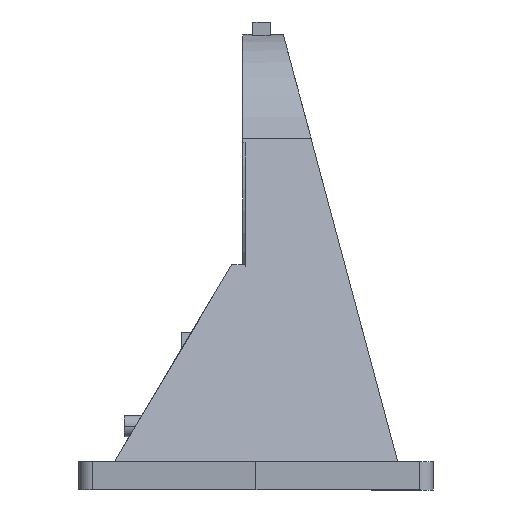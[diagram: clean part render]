
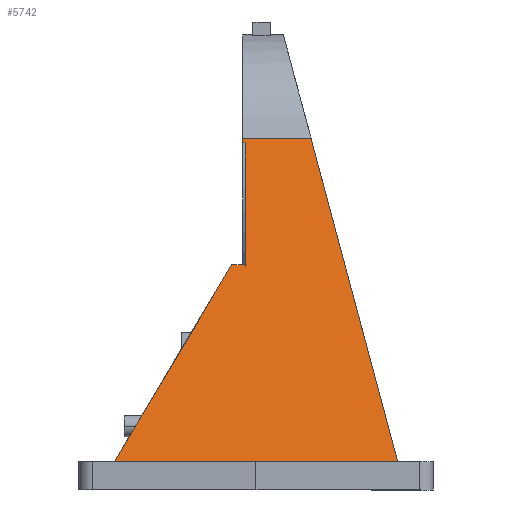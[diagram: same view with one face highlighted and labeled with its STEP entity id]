
A CAD part, front view. The second image highlights one B-rep face of the part: STEP entity #5742.
In plain terms, the highlighted planar face has unit normal (0, -0.971, 0.241).
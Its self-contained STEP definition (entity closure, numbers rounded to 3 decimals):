
#474 = VERTEX_POINT ( 'NONE', #1984 ) ;
#475 = EDGE_CURVE ( 'NONE', #6029, #474, #1982, .T. ) ;
#1979 = DIRECTION ( 'NONE',  ( -0.5, -0.208, -0.84 ) ) ;
#1980 = VECTOR ( 'NONE', #1979, 1000. ) ;
#1981 = CARTESIAN_POINT ( 'NONE',  ( 416.23, -231.152, -132.358 ) ) ;
#1982 = LINE ( 'NONE', #1981, #1980 ) ;
#1984 = CARTESIAN_POINT ( 'NONE',  ( 250.881, -300., -410. ) ) ;
#2461 = DIRECTION ( 'NONE',  ( 0., -0.241, -0.971 ) ) ;
#2462 = VECTOR ( 'NONE', #2461, 1000. ) ;
#2463 = CARTESIAN_POINT ( 'NONE',  ( 435.5, -186.841, 46.332 ) ) ;
#2464 = LINE ( 'NONE', #2463, #2462 ) ;
#3455 = DIRECTION ( 'NONE',  ( 0., -0.241, -0.971 ) ) ;
#3456 = DIRECTION ( 'NONE',  ( 0., -0.971, 0.241 ) ) ;
#3457 = CARTESIAN_POINT ( 'NONE',  ( 245.05, -186.841, 46.332 ) ) ;
#3458 = AXIS2_PLACEMENT_3D ( 'NONE', #3457, #3456, #3455 ) ;
#3460 = PLANE ( 'NONE',  #3458 ) ;
#3475 = FACE_OUTER_BOUND ( 'NONE', #5743, .T. ) ;
#3896 = VECTOR ( 'NONE', #3950, 1000. ) ;
#3897 = CARTESIAN_POINT ( 'NONE',  ( 245.05, -188.537, 39.492 ) ) ;
#3898 = LINE ( 'NONE', #3897, #3896 ) ;
#3899 = CARTESIAN_POINT ( 'NONE',  ( 435.5, -188.537, 39.492 ) ) ;
#3949 = CARTESIAN_POINT ( 'NONE',  ( 431.5, -188.537, 39.492 ) ) ;
#3950 = DIRECTION ( 'NONE',  ( 1., 0., 0. ) ) ;
#3952 = CARTESIAN_POINT ( 'NONE',  ( 435.5, -231.152, -132.358 ) ) ;
#4138 = CARTESIAN_POINT ( 'NONE',  ( 528.055, -186.841, 46.332 ) ) ;
#4139 = DIRECTION ( 'NONE',  ( -1., 0., 0. ) ) ;
#4140 = VECTOR ( 'NONE', #4139, 1000. ) ;
#4141 = CARTESIAN_POINT ( 'NONE',  ( 245.05, -186.841, 46.332 ) ) ;
#4142 = LINE ( 'NONE', #4141, #4140 ) ;
#4143 = CARTESIAN_POINT ( 'NONE',  ( 431.5, -186.841, 46.332 ) ) ;
#4144 = DIRECTION ( 'NONE',  ( 0., -0.241, -0.971 ) ) ;
#4145 = VECTOR ( 'NONE', #4144, 1000. ) ;
#4146 = CARTESIAN_POINT ( 'NONE',  ( 431.5, -186.841, 46.332 ) ) ;
#4147 = LINE ( 'NONE', #4146, #4145 ) ;
#4158 = DIRECTION ( 'NONE',  ( -1., 0., 0. ) ) ;
#4159 = VECTOR ( 'NONE', #4158, 1000. ) ;
#4160 = CARTESIAN_POINT ( 'NONE',  ( 245.05, -231.152, -132.358 ) ) ;
#4166 = LINE ( 'NONE', #4160, #4159 ) ;
#4167 = CARTESIAN_POINT ( 'NONE',  ( 416.23, -231.152, -132.358 ) ) ;
#4326 = DIRECTION ( 'NONE',  ( -0.252, 0.233, 0.939 ) ) ;
#4327 = VECTOR ( 'NONE', #4326, 1000. ) ;
#4328 = CARTESIAN_POINT ( 'NONE',  ( 650.329, -300., -410. ) ) ;
#4329 = LINE ( 'NONE', #4328, #4327 ) ;
#4331 = CARTESIAN_POINT ( 'NONE',  ( 650.329, -300., -410. ) ) ;
#4332 = DIRECTION ( 'NONE',  ( 1., 0., 0. ) ) ;
#4333 = VECTOR ( 'NONE', #4332, 1000. ) ;
#4334 = CARTESIAN_POINT ( 'NONE',  ( 680.5, -300., -410. ) ) ;
#4335 = LINE ( 'NONE', #4334, #4333 ) ;
#5600 = EDGE_CURVE ( 'NONE', #5917, #5949, #2464, .T. ) ;
#5664 = ORIENTED_EDGE ( 'NONE', *, *, #5600, .T. ) ;
#5665 = ORIENTED_EDGE ( 'NONE', *, *, #6031, .T. ) ;
#5666 = ORIENTED_EDGE ( 'NONE', *, *, #475, .T. ) ;
#5742 = ADVANCED_FACE ( 'NONE', ( #3475 ), #3460, .T. ) ;
#5743 = EDGE_LOOP ( 'NONE', ( #5744, #5664, #5665, #5666, #6098, #6101, #6103, #6104 ) ) ;
#5744 = ORIENTED_EDGE ( 'NONE', *, *, #5919, .T. ) ;
#5917 = VERTEX_POINT ( 'NONE', #3899 ) ;
#5919 = EDGE_CURVE ( 'NONE', #5920, #5917, #3898, .T. ) ;
#5920 = VERTEX_POINT ( 'NONE', #3949 ) ;
#5949 = VERTEX_POINT ( 'NONE', #3952 ) ;
#6012 = EDGE_CURVE ( 'NONE', #6013, #5920, #4147, .T. ) ;
#6013 = VERTEX_POINT ( 'NONE', #4143 ) ;
#6019 = EDGE_CURVE ( 'NONE', #6020, #6013, #4142, .T. ) ;
#6020 = VERTEX_POINT ( 'NONE', #4138 ) ;
#6029 = VERTEX_POINT ( 'NONE', #4167 ) ;
#6031 = EDGE_CURVE ( 'NONE', #5949, #6029, #4166, .T. ) ;
#6098 = ORIENTED_EDGE ( 'NONE', *, *, #6099, .T. ) ;
#6099 = EDGE_CURVE ( 'NONE', #474, #6100, #4335, .T. ) ;
#6100 = VERTEX_POINT ( 'NONE', #4331 ) ;
#6101 = ORIENTED_EDGE ( 'NONE', *, *, #6102, .T. ) ;
#6102 = EDGE_CURVE ( 'NONE', #6100, #6020, #4329, .T. ) ;
#6103 = ORIENTED_EDGE ( 'NONE', *, *, #6019, .T. ) ;
#6104 = ORIENTED_EDGE ( 'NONE', *, *, #6012, .T. ) ;
